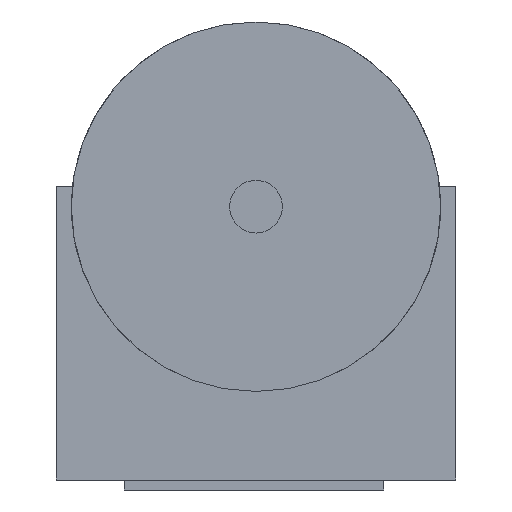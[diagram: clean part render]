
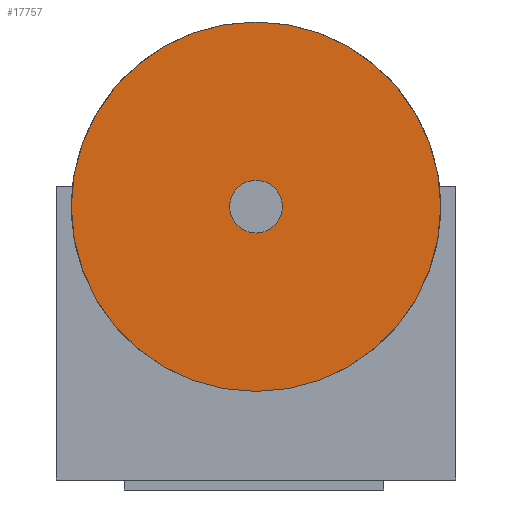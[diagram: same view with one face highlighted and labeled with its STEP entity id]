
A CAD part, front view. The second image highlights one B-rep face of the part: STEP entity #17757.
In plain terms, the highlighted planar face has unit normal (0, -1, 0).
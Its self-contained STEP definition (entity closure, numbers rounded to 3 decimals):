
#17738 = VERTEX_POINT('',#17739);
#17739 = CARTESIAN_POINT('',(10.3,-51.9,207.711));
#17745 = EDGE_CURVE('',#17738,#17738,#17746,.T.);
#17746 = CIRCLE('',#17747,27.711);
#17747 = AXIS2_PLACEMENT_3D('',#17748,#17749,#17750);
#17748 = CARTESIAN_POINT('',(10.3,-51.9,180.));
#17749 = DIRECTION('',(0.,1.,0.));
#17750 = DIRECTION('',(0.,-0.,1.));
#17757 = ADVANCED_FACE('',(#17758,#17761),#17772,.F.);
#17758 = FACE_BOUND('',#17759,.F.);
#17759 = EDGE_LOOP('',(#17760));
#17760 = ORIENTED_EDGE('',*,*,#17745,.T.);
#17761 = FACE_BOUND('',#17762,.F.);
#17762 = EDGE_LOOP('',(#17763));
#17763 = ORIENTED_EDGE('',*,*,#17764,.F.);
#17764 = EDGE_CURVE('',#17765,#17765,#17767,.T.);
#17765 = VERTEX_POINT('',#17766);
#17766 = CARTESIAN_POINT('',(10.3,-51.9,183.95));
#17767 = CIRCLE('',#17768,3.95);
#17768 = AXIS2_PLACEMENT_3D('',#17769,#17770,#17771);
#17769 = CARTESIAN_POINT('',(10.3,-51.9,180.));
#17770 = DIRECTION('',(0.,1.,0.));
#17771 = DIRECTION('',(0.,-0.,1.));
#17772 = PLANE('',#17773);
#17773 = AXIS2_PLACEMENT_3D('',#17774,#17775,#17776);
#17774 = CARTESIAN_POINT('',(10.3,-51.9,180.));
#17775 = DIRECTION('',(0.,1.,0.));
#17776 = DIRECTION('',(0.,-0.,1.));
